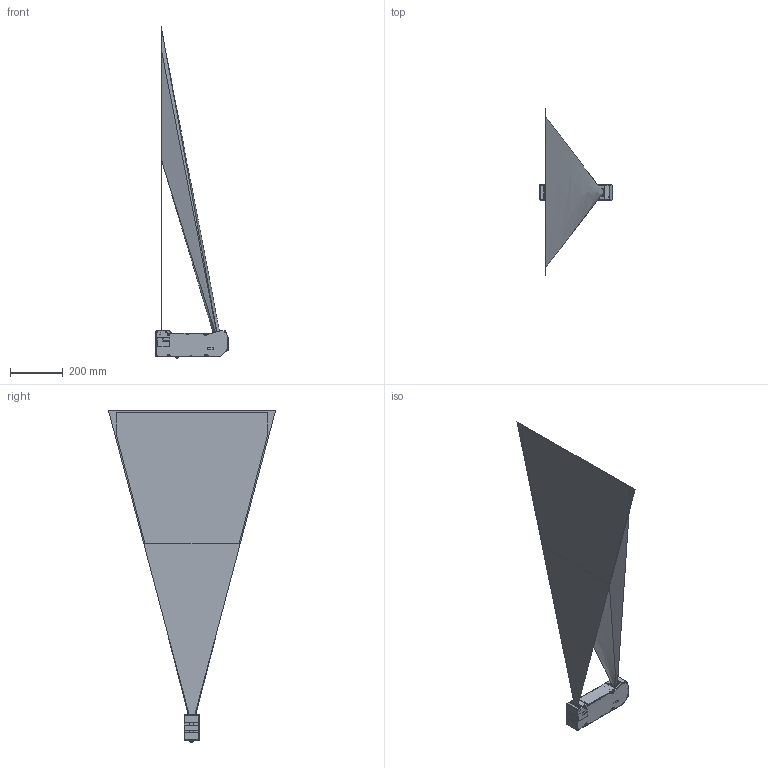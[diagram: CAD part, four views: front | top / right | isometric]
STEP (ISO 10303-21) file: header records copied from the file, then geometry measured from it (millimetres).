
FILE_DESCRIPTION (( 'STEP AP214' ), '1' );
FILE_NAME ('SR7900-02假蚾尨砩芞.STEP', '2023-12-29T08:50:49', ( 'Windows 蚚誧' ), ( 'Microsoft' ), 'SwSTEP 2.0', 'SolidWorks 2020', '' );
FILE_SCHEMA (( 'AUTOMOTIVE_DESIGN' ));
Length unit declared in the file: millimetre
Products named in the file (1): SR7900-02假蚾尨砩芞
Bounding box: 275.5 x 636 x 1263.7 mm (x, y, z)
Surface area: 1722485 mm2 (no closed solid volume)
Topology: 0 solids, 121 shells, 5229 faces, 14076 edges, 9088 vertices
Faces by surface type: plane 2623, bspline 1239, cylinder 757, cone 584, sphere 16, torus 10
Entity records: 272795 total; most frequent: CARTESIAN_POINT 92852, ORIENTED_EDGE 27820, DIRECTION 21130, EDGE_CURVE 13919, VERTEX_POINT 9088, VECTOR 8718, LINE 8718, AXIS2_PLACEMENT_3D 6206
